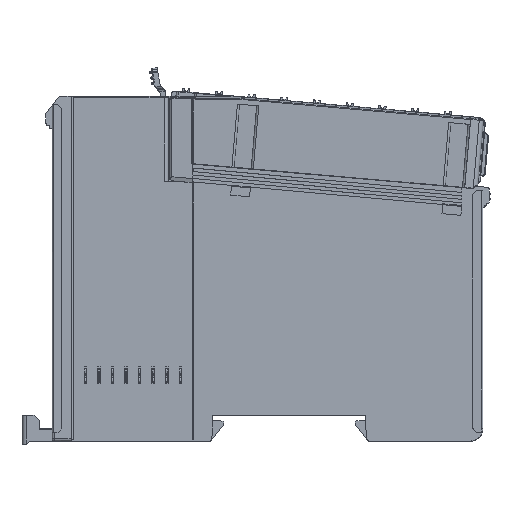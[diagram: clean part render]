
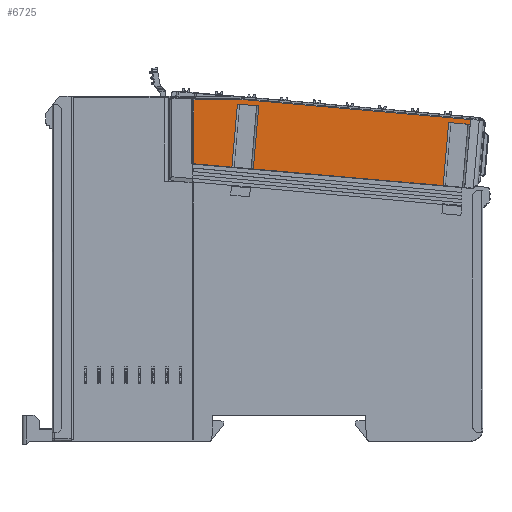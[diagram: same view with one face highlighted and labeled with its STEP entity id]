
A CAD part, top view. The second image highlights one B-rep face of the part: STEP entity #6725.
In plain terms, the highlighted planar face has unit normal (0, 0, 1).
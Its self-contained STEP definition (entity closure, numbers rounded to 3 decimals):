
#1232=DIRECTION('',(-0.996,0.087,0.));
#1233=VECTOR('',#1232,44.242);
#1234=CARTESIAN_POINT('',(35.673,53.814,222.567));
#1235=LINE('',#1234,#1233);
#1574=DIRECTION('',(0.996,-0.087,0.));
#1575=VECTOR('',#1574,52.075);
#1576=CARTESIAN_POINT('',(-9.84,73.686,222.567));
#1577=LINE('',#1576,#1575);
#1589=DIRECTION('',(0.996,-0.087,0.));
#1590=VECTOR('',#1589,5.002);
#1591=CARTESIAN_POINT('',(36.954,68.457,222.567));
#1592=LINE('',#1591,#1590);
#1593=DIRECTION('',(0.996,-0.087,0.));
#1594=VECTOR('',#1593,5.);
#1595=CARTESIAN_POINT('',(-12.1,72.749,222.567));
#1596=LINE('',#1595,#1594);
#1597=DIRECTION('',(0.996,-0.087,0.));
#1598=VECTOR('',#1597,8.903);
#1599=CARTESIAN_POINT('',(-22.25,58.882,222.567));
#1600=LINE('',#1599,#1598);
#1601=DIRECTION('',(0.,-1.,0.));
#1602=VECTOR('',#1601,14.603);
#1603=CARTESIAN_POINT('',(-22.25,73.485,222.567));
#1604=LINE('',#1603,#1602);
#1605=DIRECTION('',(-0.702,-0.712,0.));
#1606=VECTOR('',#1605,0.545);
#1607=CARTESIAN_POINT('',(-21.867,73.873,222.567));
#1608=LINE('',#1607,#1606);
#1609=DIRECTION('',(-1.,0.,0.));
#1610=VECTOR('',#1609,7.745);
#1611=CARTESIAN_POINT('',(-14.122,73.873,222.567));
#1612=LINE('',#1611,#1610);
#1613=CARTESIAN_POINT('',(-9.84,73.686,222.567));
#1614=CARTESIAN_POINT('',(-9.849,73.686,222.567));
#1615=CARTESIAN_POINT('',(-10.561,73.749,222.567));
#1616=CARTESIAN_POINT('',(-11.978,73.841,222.567));
#1617=CARTESIAN_POINT('',(-13.399,73.872,222.567));
#1618=CARTESIAN_POINT('',(-14.113,73.873,222.567));
#1619=CARTESIAN_POINT('',(-14.122,73.873,222.567));
#1655=DIRECTION('',(-0.087,-0.996,0.));
#1656=VECTOR('',#1655,14.699);
#1657=CARTESIAN_POINT('',(36.954,68.457,222.567));
#1658=LINE('',#1657,#1656);
#1684=DIRECTION('',(-0.087,-0.996,0.));
#1685=VECTOR('',#1684,1.131);
#1686=CARTESIAN_POINT('',(42.036,69.147,222.567));
#1687=LINE('',#1686,#1685);
#1693=DIRECTION('',(0.087,0.996,0.));
#1694=VECTOR('',#1693,14.699);
#1695=CARTESIAN_POINT('',(-8.4,57.67,222.567));
#1696=LINE('',#1695,#1694);
#1725=DIRECTION('',(-0.087,-0.996,0.));
#1726=VECTOR('',#1725,14.699);
#1727=CARTESIAN_POINT('',(-12.1,72.749,222.567));
#1728=LINE('',#1727,#1726);
#2527=CARTESIAN_POINT('',(-9.84,73.686,222.567));
#2529=VERTEX_POINT('',#2527);
#2531=VERTEX_POINT('',#1619);
#2534=CARTESIAN_POINT('',(42.036,69.147,222.567));
#2535=VERTEX_POINT('',#2534);
#2641=CARTESIAN_POINT('',(-21.867,73.873,222.567));
#2642=VERTEX_POINT('',#2641);
#2644=CARTESIAN_POINT('',(36.954,68.457,222.567));
#2645=CARTESIAN_POINT('',(41.938,68.021,222.567));
#2646=VERTEX_POINT('',#2644);
#2647=VERTEX_POINT('',#2645);
#2648=CARTESIAN_POINT('',(35.673,53.814,222.567));
#2649=VERTEX_POINT('',#2648);
#2650=CARTESIAN_POINT('',(-8.4,57.67,222.567));
#2651=VERTEX_POINT('',#2650);
#2652=CARTESIAN_POINT('',(-7.119,72.313,222.567));
#2653=VERTEX_POINT('',#2652);
#2654=CARTESIAN_POINT('',(-12.1,72.749,222.567));
#2655=VERTEX_POINT('',#2654);
#2656=CARTESIAN_POINT('',(-13.381,58.106,222.567));
#2657=VERTEX_POINT('',#2656);
#2658=CARTESIAN_POINT('',(-22.25,58.882,222.567));
#2659=VERTEX_POINT('',#2658);
#2660=CARTESIAN_POINT('',(-22.25,73.485,222.567));
#2661=VERTEX_POINT('',#2660);
#6697=CARTESIAN_POINT('',(-9.631,72.621,222.567));
#6698=DIRECTION('',(0.,0.,-1.));
#6699=DIRECTION('',(0.087,0.996,0.));
#6700=AXIS2_PLACEMENT_3D('',#6697,#6698,#6699);
#6701=PLANE('',#6700);
#6703=ORIENTED_EDGE('',*,*,#6702,.F.);
#6705=ORIENTED_EDGE('',*,*,#6704,.T.);
#6706=ORIENTED_EDGE('',*,*,#5888,.T.);
#6708=ORIENTED_EDGE('',*,*,#6707,.T.);
#6710=ORIENTED_EDGE('',*,*,#6709,.F.);
#6712=ORIENTED_EDGE('',*,*,#6711,.T.);
#6713=ORIENTED_EDGE('',*,*,#5876,.F.);
#6715=ORIENTED_EDGE('',*,*,#6714,.F.);
#6717=ORIENTED_EDGE('',*,*,#6716,.F.);
#6718=ORIENTED_EDGE('',*,*,#6570,.F.);
#6719=ORIENTED_EDGE('',*,*,#6631,.F.);
#6720=ORIENTED_EDGE('',*,*,#6688,.T.);
#6722=ORIENTED_EDGE('',*,*,#6721,.T.);
#6723=EDGE_LOOP('',(#6703,#6705,#6706,#6708,#6710,#6712,#6713,#6715,#6717,#6718,
#6719,#6720,#6722));
#6724=FACE_OUTER_BOUND('',#6723,.F.);
#6725=ADVANCED_FACE('',(#6724),#6701,.F.);
#1620=B_SPLINE_CURVE_WITH_KNOTS('',3,(#1613,#1614,#1615,#1616,#1617,#1618,
#1619),.UNSPECIFIED.,.F.,.F.,(4,1,1,1,4),(0.,0.006,
0.5,0.994,1.),.UNSPECIFIED.);
#5876=EDGE_CURVE('',#2659,#2657,#1600,.T.);
#5888=EDGE_CURVE('',#2649,#2651,#1235,.T.);
#6570=EDGE_CURVE('',#2531,#2642,#1612,.T.);
#6631=EDGE_CURVE('',#2529,#2531,#1620,.T.);
#6688=EDGE_CURVE('',#2529,#2535,#1577,.T.);
#6702=EDGE_CURVE('',#2646,#2647,#1592,.T.);
#6704=EDGE_CURVE('',#2646,#2649,#1658,.T.);
#6707=EDGE_CURVE('',#2651,#2653,#1696,.T.);
#6709=EDGE_CURVE('',#2655,#2653,#1596,.T.);
#6711=EDGE_CURVE('',#2655,#2657,#1728,.T.);
#6714=EDGE_CURVE('',#2661,#2659,#1604,.T.);
#6716=EDGE_CURVE('',#2642,#2661,#1608,.T.);
#6721=EDGE_CURVE('',#2535,#2647,#1687,.T.);
